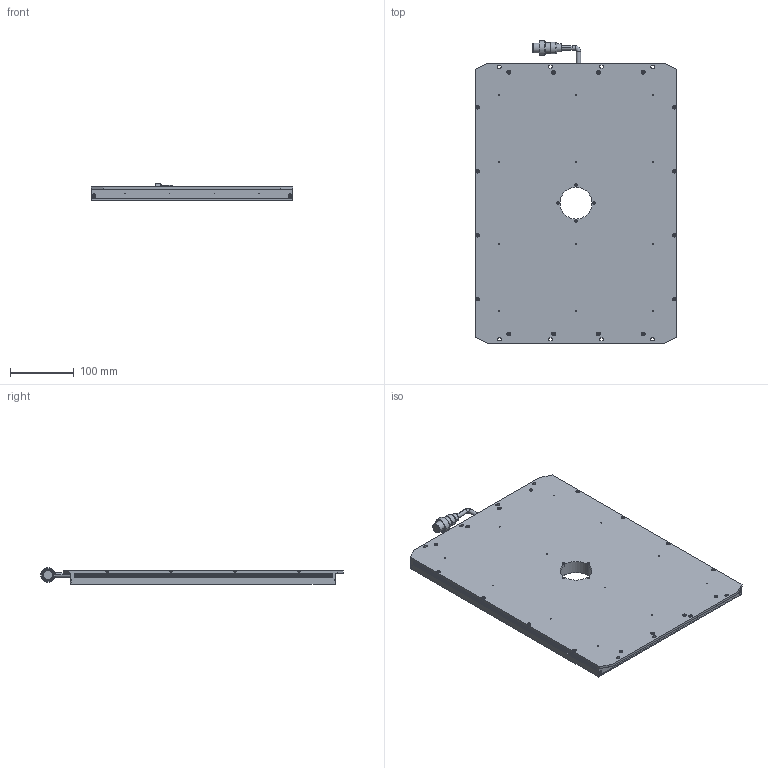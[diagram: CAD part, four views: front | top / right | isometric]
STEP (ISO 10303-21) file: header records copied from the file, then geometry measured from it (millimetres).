
FILE_DESCRIPTION((''),'2;1');
FILE_NAME('LS-LBES-H-400-300-X2','2022-11-04T17:15:55',('LumaSpec Vision'),('LumaSpec Vision'),'CREO PARAMETRIC BY PTC INC, 2020044','CREO PARAMETRIC BY PTC INC, 2020044','');
FILE_SCHEMA(('AUTOMOTIVE_DESIGN { 1 0 10303 214 1 1 1 1 }'));
Length unit declared in the file: millimetre
Products named in the file (1): PRT0001
Bounding box: 315 x 472.75 x 25.75 mm (x, y, z)
Volume: 2737862.5 mm3; surface area: 319248.4 mm2
Topology: 2 solids, 56 shells, 2068 faces, 4743 edges, 2846 vertices
Faces by surface type: plane 1235, cylinder 557, cone 190, torus 86
Entity records: 58852 total; most frequent: CARTESIAN_POINT 11169, DIRECTION 9838, ORIENTED_EDGE 9470, EDGE_CURVE 4735, AXIS2_PLACEMENT_3D 3393, VECTOR 3052, LINE 3052, VERTEX_POINT 2846
